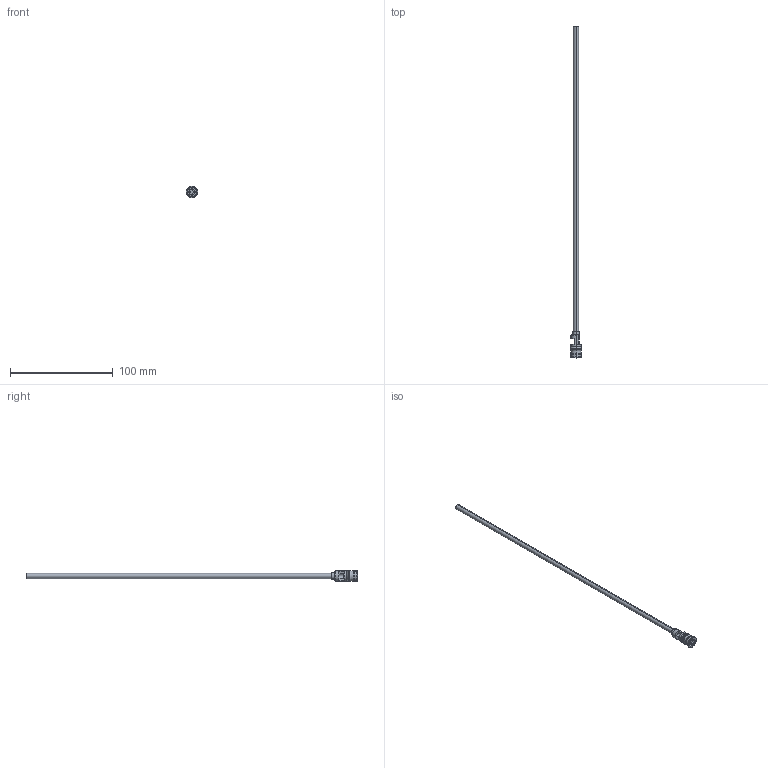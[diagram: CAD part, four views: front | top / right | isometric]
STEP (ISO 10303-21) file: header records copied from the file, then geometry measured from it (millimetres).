
FILE_DESCRIPTION (( 'STEP AP203' ), '1' );
FILE_NAME ('RF-10F_5 x300.STEP', '2015-11-20T08:30:11', ( 'Balzi' ), ( '' ), 'SwSTEP 2.0', 'SolidWorks 2015', '' );
FILE_SCHEMA (( 'CONFIG_CONTROL_DESIGN' ));
Length unit declared in the file: millimetre
Products named in the file (1): RF-10F_5 x300
Bounding box: 11.3 x 322.5 x 11.3 mm (x, y, z)
Volume: 2292.2 mm3; surface area: 10261.1 mm2
Topology: 1 solids, 1 shells, 71 faces, 164 edges, 102 vertices
Faces by surface type: plane 26, cylinder 25, cone 12, torus 8
Entity records: 2114 total; most frequent: DIRECTION 385, CARTESIAN_POINT 357, ORIENTED_EDGE 328, EDGE_CURVE 164, AXIS2_PLACEMENT_3D 154, VERTEX_POINT 102, CIRCLE 82, EDGE_LOOP 80
